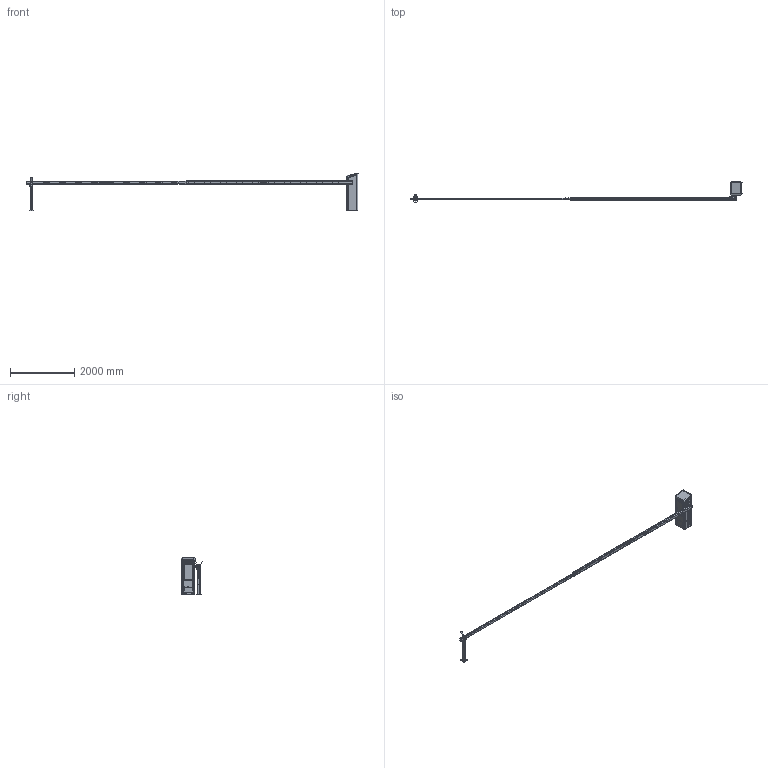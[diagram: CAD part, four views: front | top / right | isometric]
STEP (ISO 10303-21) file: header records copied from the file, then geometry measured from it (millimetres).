
FILE_DESCRIPTION(/* description */ ('Unknown'),/* implementation_level */ '2;1');
FILE_NAME(/* name */ '55860005_01',/* time_stamp */ '2023-03-06T09:11:20+01:00',/* author */ ('Unknown'),/* organization */ ('Unknown'),/* preprocessor_version */ 'ST-DEVELOPER v18.102',/* originating_system */ 'Solid Edge',/* authorisation */ 'Unknown');
FILE_SCHEMA (('AUTOMOTIVE_DESIGN {1 0 10303 214 3 1 1}'));
Products named in the file (107): 55860005; 55860005_Baum_10000; 55155426_10000; 20115047; 20635405_oa_0; 20115040; 20635410_oa_1; 20115008; 20185229; 20185227; 34915000; 34775000; 20180409; 34595007; ACCESS XXL-R-HUELLE_oa_2; 20165183; 20775066; 20615330; 20415099; 20195101; 20415102; 20415100; 20405900; 20615330_720_3.725_Kehlnaht 24_oa_3; 20615330_720_3.725_Kehlnaht 24_oa_4; Schweissmutter_DIN929_M5; 20615330_720_3.725_Kehlnaht 24_oa_5; 20615330_720_3.725_Kehlnaht 24_oa_6; 20615330_720_3.725_Kehlnaht 24_oa_7; 20615330_720_3.725_Kehlnaht 24_oa_8; 20615330_720_3.725_Kehlnaht 24_oa_9; 20615330_720_3.725_Kehlnaht 24_oa_10; 20475126; 20615330_720_3.725_Kehlnaht 24_oa_11; 20615330_720_3.725_Kehlnaht 24_oa_12; 20615330_720_3.725_Kehlnaht 24_oa_13; 20615330_720_3.725_Kehlnaht 24_oa_14; 20615330_720_3.725_Kehlnaht 24_oa_15; 20615330_720_3.725_Kehlnaht 24_oa_16; 20615330_720_3.725_Kehlnaht 24_oa_17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
Assembly tree (210 placements, depth 5):
  55860005
    55860005_Baum_10000
      55155426_10000
        20115047
        20635405_oa_0
        20115040
        20635410_oa_1
        20115008
        20185229  x19
        20185227  x19
        34915000  x4
        34775000  x12
        20180409  x4
        34595007
    ACCESS XXL-R-HUELLE_oa_2
      20165183
      20775066  x2
      20615330
        20415099
        20195101  x2
        20415102
        20415100  x2
        20405900
        20615330_720_3.725_Kehlnaht 24_oa_3
        20615330_720_3.725_Kehlnaht 24_oa_4
        Schweissmutter_DIN929_M5  x4
        20615330_720_3.725_Kehlnaht 24_oa_5
        20615330_720_3.725_Kehlnaht 24_oa_6
        20615330_720_3.725_Kehlnaht 24_oa_7
        20615330_720_3.725_Kehlnaht 24_oa_8
        20615330_720_3.725_Kehlnaht 24_oa_9
        20615330_720_3.725_Kehlnaht 24_oa_10
        20475126
        20615330_720_3.725_Kehlnaht 24_oa_11
        20615330_720_3.725_Kehlnaht 24_oa_12
        20615330_720_3.725_Kehlnaht 24_oa_13
        20615330_720_3.725_Kehlnaht 24_oa_14
        20615330_720_3.725_Kehlnaht 24_oa_15
        20615330_720_3.725_Kehlnaht 24_oa_16
        20615330_720_3.725_Kehlnaht 24_oa_17
        Einpress-Gewindebolzen_PEM_FH_M6x18  x4
        Einpressmutter_KVT_S_M8_2  x8
        Einpress-Gewindebolzen-M6x25  x3
        20475139_oa_18
        Einpress-Gewindebolzen-M6x16  x4
        20615330_720_3.725_Kehlnaht 24_oa_19
        20615330_720_3.725_Kehlnaht 24_oa_20
        20615330_720_3.725_Kehlnaht 24_oa_21
        20475140
        20475139
        20615330_720_3.725_Kehlnaht 24_oa_22
        20615330_720_3.725_Kehlnaht 24_oa_23
      10345006  x2
        32320016
          32320016_a
          32320016_c
          32320016_b
        20045112
      10145086_oa_24
        20525332
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Bounding box: 10360.63 x 669.77 x 1164.34 mm (x, y, z)
Volume: 22088585.3 mm3; surface area: 15860277.6 mm2
Topology: 240 solids, 240 shells, 7714 faces, 19708 edges, 12734 vertices
Faces by surface type: plane 4260, cylinder 2185, bspline 610, cone 336, torus 253, sphere 70
Full cylindrical faces by diameter (mm): 1.5 x3, 1.8 x2, 2.5 x1, 3 x7, 3.459 x2, 3.5 x5, 3.6 x2, 3.65 x4, 3.9 x9, 4.134 x8, 4.2 x4, 4.3 x1, 4.5 x1, 4.917 x1, 5.5 x9, 5.6 x1, 6 x39, 6.466 x8, 6.5 x4, 6.647 x28, 6.973 x11, 7 x12, 7.1 x6, 7.2 x4, 7.95 x8, 8 x28, 8.1 x2, 8.4 x8, 8.5 x8, 9 x16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
Entity records: 144542 total; most frequent: CARTESIAN_POINT 30752, DIRECTION 21517, ORIENTED_EDGE 21322, EDGE_CURVE 10661, AXIS2_PLACEMENT_3D 7312, VERTEX_POINT 7094, LINE 6893, VECTOR 6893
